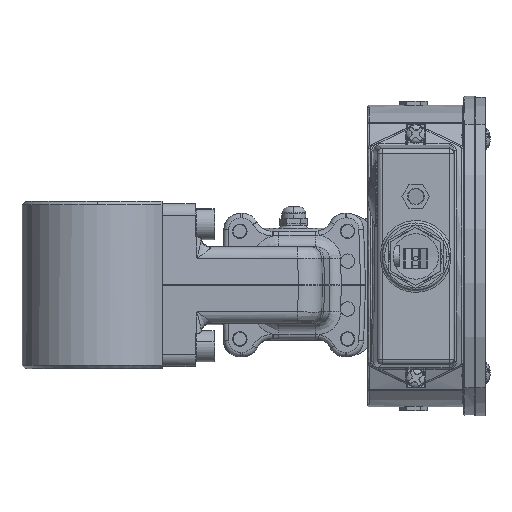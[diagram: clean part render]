
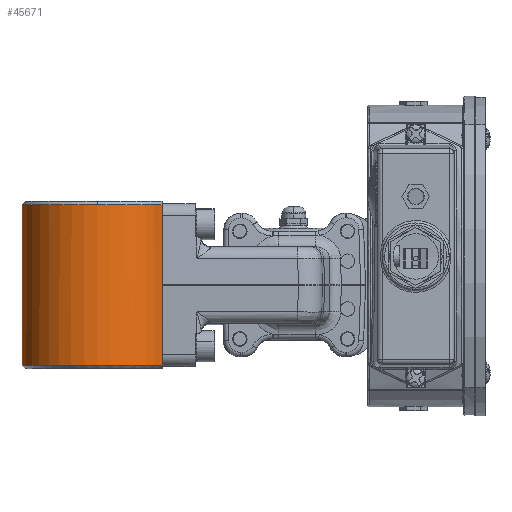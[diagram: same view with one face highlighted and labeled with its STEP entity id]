
A CAD part, front view. The second image highlights one B-rep face of the part: STEP entity #45671.
In plain terms, the highlighted cylindrical face has radius 31.5 mm (diameter 63 mm), a partial arc.
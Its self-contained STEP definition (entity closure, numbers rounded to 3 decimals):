
#1069 = ORIENTED_EDGE ( 'NONE', *, *, #79433, .T. ) ;
#2788 = CARTESIAN_POINT ( 'NONE',  ( -55.19, -83.918, -11.032 ) ) ;
#2933 = VECTOR ( 'NONE', #33601, 1000. ) ;
#4965 = AXIS2_PLACEMENT_3D ( 'NONE', #72852, #25708, #80610 ) ;
#5788 = CARTESIAN_POINT ( 'NONE',  ( -55.19, -83.918, 55.968 ) ) ;
#7738 = CARTESIAN_POINT ( 'NONE',  ( -82.19, -67.693, -11.032 ) ) ;
#11089 = VERTEX_POINT ( 'NONE', #2788 ) ;
#13687 = EDGE_CURVE ( 'NONE', #15184, #18656, #42451, .T. ) ;
#15184 = VERTEX_POINT ( 'NONE', #48134 ) ;
#15720 = DIRECTION ( 'NONE',  ( -1., 0., 0. ) ) ;
#16337 = DIRECTION ( 'NONE',  ( 0., 0., 1. ) ) ;
#17571 = CARTESIAN_POINT ( 'NONE',  ( -82.19, -67.693, 55.968 ) ) ;
#18656 = VERTEX_POINT ( 'NONE', #24958 ) ;
#20338 = CARTESIAN_POINT ( 'NONE',  ( -82.19, -67.693, 57.468 ) ) ;
#21773 = VERTEX_POINT ( 'NONE', #57364 ) ;
#23076 = CIRCLE ( 'NONE', #23507, 31.5 ) ;
#23507 = AXIS2_PLACEMENT_3D ( 'NONE', #17571, #72601, #25473 ) ;
#24694 = AXIS2_PLACEMENT_3D ( 'NONE', #7738, #62905, #15720 ) ;
#24958 = CARTESIAN_POINT ( 'NONE',  ( -113.69, -67.693, -11.032 ) ) ;
#25473 = DIRECTION ( 'NONE',  ( -1., 0., 0. ) ) ;
#25708 = DIRECTION ( 'NONE',  ( 0., 0., -1. ) ) ;
#31303 = AXIS2_PLACEMENT_3D ( 'NONE', #20338, #75014, #44100 ) ;
#33508 = CARTESIAN_POINT ( 'NONE',  ( -113.69, -67.693, 57.468 ) ) ;
#33601 = DIRECTION ( 'NONE',  ( 0., 0., -1. ) ) ;
#37229 = EDGE_CURVE ( 'NONE', #11089, #92514, #58463, .T. ) ;
#39015 = ORIENTED_EDGE ( 'NONE', *, *, #13687, .T. ) ;
#42451 = LINE ( 'NONE', #33508, #2933 ) ;
#44100 = DIRECTION ( 'NONE',  ( -1., 0., 0. ) ) ;
#45671 = ADVANCED_FACE ( 'NONE', ( #68793 ), #66325, .T. ) ;
#46070 = CIRCLE ( 'NONE', #4965, 31.5 ) ;
#47377 = EDGE_CURVE ( 'NONE', #21773, #15184, #23076, .T. ) ;
#48134 = CARTESIAN_POINT ( 'NONE',  ( -113.69, -67.693, 55.968 ) ) ;
#55203 = ORIENTED_EDGE ( 'NONE', *, *, #47377, .T. ) ;
#55231 = CIRCLE ( 'NONE', #24694, 31.5 ) ;
#57364 = CARTESIAN_POINT ( 'NONE',  ( -82.19, -99.193, 55.968 ) ) ;
#58463 = LINE ( 'NONE', #78535, #97409 ) ;
#62905 = DIRECTION ( 'NONE',  ( 0., 0., 1. ) ) ;
#66325 = CYLINDRICAL_SURFACE ( 'NONE', #31303, 31.5 ) ;
#68793 = FACE_OUTER_BOUND ( 'NONE', #74183, .T. ) ;
#72601 = DIRECTION ( 'NONE',  ( 0., 0., -1. ) ) ;
#72852 = CARTESIAN_POINT ( 'NONE',  ( -82.19, -67.693, 55.968 ) ) ;
#74183 = EDGE_LOOP ( 'NONE', ( #55203, #39015, #1069, #75967, #92918 ) ) ;
#75014 = DIRECTION ( 'NONE',  ( 0., 0., -1. ) ) ;
#75967 = ORIENTED_EDGE ( 'NONE', *, *, #37229, .T. ) ;
#78535 = CARTESIAN_POINT ( 'NONE',  ( -55.19, -83.918, 57.468 ) ) ;
#79433 = EDGE_CURVE ( 'NONE', #18656, #11089, #55231, .T. ) ;
#80610 = DIRECTION ( 'NONE',  ( -1., 0., 0. ) ) ;
#83429 = EDGE_CURVE ( 'NONE', #92514, #21773, #46070, .T. ) ;
#92514 = VERTEX_POINT ( 'NONE', #5788 ) ;
#92918 = ORIENTED_EDGE ( 'NONE', *, *, #83429, .T. ) ;
#97409 = VECTOR ( 'NONE', #16337, 1000. ) ;
